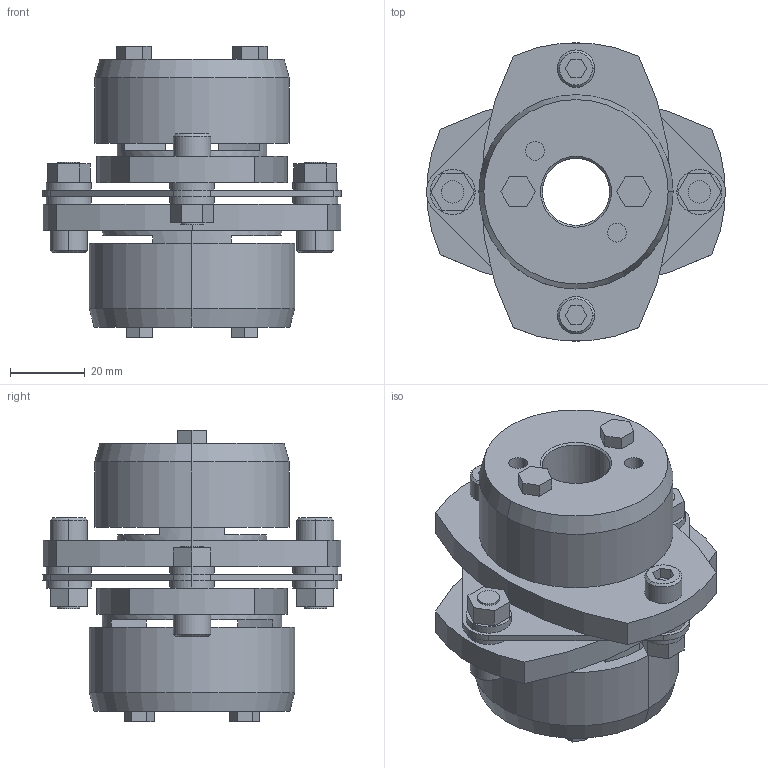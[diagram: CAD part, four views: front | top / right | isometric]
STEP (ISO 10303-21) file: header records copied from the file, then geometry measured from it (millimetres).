
FILE_DESCRIPTION((''),'2;1');
FILE_NAME('LCS-80T7-18×28.stp','2011-09-12T15:03:31',(''),(''),'AutoCAD STEP 2000i','AutoCAD 2000i',', , ');
FILE_SCHEMA(('CONFIG_CONTROL_DESIGN'));
Length unit declared in the file: millimetre
Products named in the file (9): LCS-80T7-17×28; 忣兜1; LC80T7-T028; LC80T7-T024; LC80T7-T022; LC80T7-T019; LC80T7-T017-1; LC80T7-T017; LCS80-ITA
Assembly tree (8 placements, depth 2):
  LCS-80T7-17×28
    忣兜1
    LC80T7-T028
    LC80T7-T024
    LC80T7-T022
    LC80T7-T019
    LC80T7-T017-1
    LC80T7-T017
    LCS80-ITA
Bounding box: 80 x 79.95 x 78.05 mm (x, y, z)
Volume: 137824.8 mm3; surface area: 41389.1 mm2
Topology: 1 solids, 1 shells, 232 faces, 568 edges, 372 vertices
Faces by surface type: plane 132, cylinder 80, cone 20
Entity records: 7091 total; most frequent: DIRECTION 1246, CARTESIAN_POINT 1181, ORIENTED_EDGE 1136, EDGE_CURVE 568, AXIS2_PLACEMENT_3D 437, VERTEX_POINT 372, VECTOR 372, LINE 372
